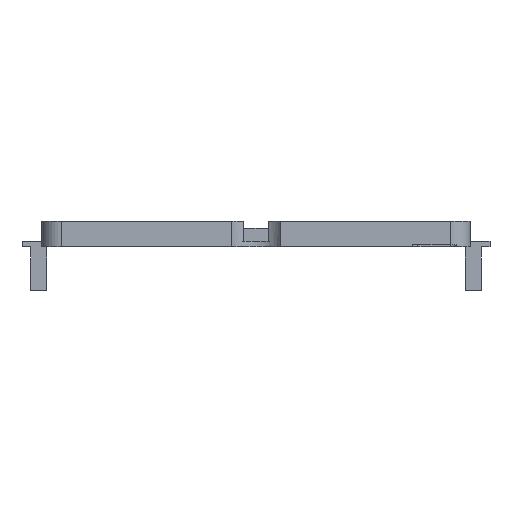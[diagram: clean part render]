
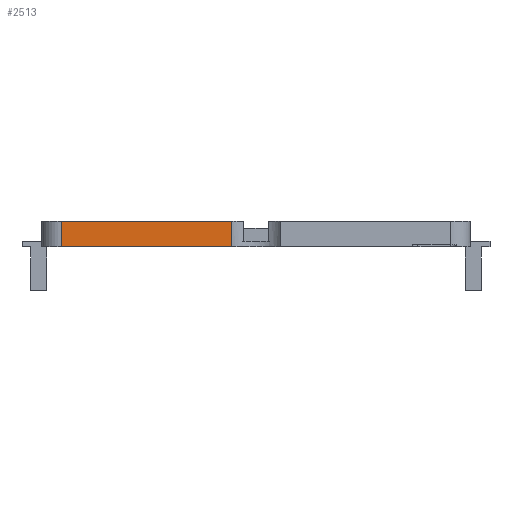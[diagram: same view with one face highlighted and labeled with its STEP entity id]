
A CAD part, front view. The second image highlights one B-rep face of the part: STEP entity #2513.
In plain terms, the highlighted planar face has unit normal (0, -1, 0).
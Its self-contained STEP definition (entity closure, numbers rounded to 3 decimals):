
#44 = CYLINDRICAL_SURFACE('',#45,3.);
#45 = AXIS2_PLACEMENT_3D('',#46,#47,#48);
#46 = CARTESIAN_POINT('',(-29.,-14.5,0.5));
#47 = DIRECTION('',(0.,0.,1.));
#48 = DIRECTION('',(-1.,-0.,0.));
#72 = PLANE('',#73);
#73 = AXIS2_PLACEMENT_3D('',#74,#75,#76);
#74 = CARTESIAN_POINT('',(-32.,-17.5,0.5));
#75 = DIRECTION('',(0.,0.,1.));
#76 = DIRECTION('',(1.,0.,-0.));
#340 = PLANE('',#341);
#341 = AXIS2_PLACEMENT_3D('',#342,#343,#344);
#342 = CARTESIAN_POINT('',(-32.,-17.5,4.3));
#343 = DIRECTION('',(0.,0.,1.));
#344 = DIRECTION('',(1.,0.,-0.));
#356 = VERTEX_POINT('',#357);
#357 = CARTESIAN_POINT('',(-29.,-17.5,0.5));
#379 = EDGE_CURVE('',#356,#380,#382,.T.);
#380 = VERTEX_POINT('',#381);
#381 = CARTESIAN_POINT('',(-29.,-17.5,4.3));
#382 = SURFACE_CURVE('',#383,(#387,#394),.PCURVE_S1.);
#383 = LINE('',#384,#385);
#384 = CARTESIAN_POINT('',(-29.,-17.5,0.5));
#385 = VECTOR('',#386,1.);
#386 = DIRECTION('',(0.,0.,1.));
#387 = PCURVE('',#44,#388);
#388 = DEFINITIONAL_REPRESENTATION('',(#389),#393);
#389 = LINE('',#390,#391);
#390 = CARTESIAN_POINT('',(1.571,0.));
#391 = VECTOR('',#392,1.);
#392 = DIRECTION('',(0.,1.));
#393 = ( GEOMETRIC_REPRESENTATION_CONTEXT(2) 
PARAMETRIC_REPRESENTATION_CONTEXT() REPRESENTATION_CONTEXT('2D SPACE',''
  ) );
#394 = PCURVE('',#395,#400);
#395 = PLANE('',#396);
#396 = AXIS2_PLACEMENT_3D('',#397,#398,#399);
#397 = CARTESIAN_POINT('',(-32.,-17.5,0.5));
#398 = DIRECTION('',(0.,1.,0.));
#399 = DIRECTION('',(0.,-0.,1.));
#400 = DEFINITIONAL_REPRESENTATION('',(#401),#405);
#401 = LINE('',#402,#403);
#402 = CARTESIAN_POINT('',(0.,3.));
#403 = VECTOR('',#404,1.);
#404 = DIRECTION('',(1.,0.));
#405 = ( GEOMETRIC_REPRESENTATION_CONTEXT(2) 
PARAMETRIC_REPRESENTATION_CONTEXT() REPRESENTATION_CONTEXT('2D SPACE',''
  ) );
#435 = EDGE_CURVE('',#356,#436,#438,.T.);
#436 = VERTEX_POINT('',#437);
#437 = CARTESIAN_POINT('',(-3.621,-17.5,0.5));
#438 = SURFACE_CURVE('',#439,(#443,#450),.PCURVE_S1.);
#439 = LINE('',#440,#441);
#440 = CARTESIAN_POINT('',(-32.,-17.5,0.5));
#441 = VECTOR('',#442,1.);
#442 = DIRECTION('',(1.,0.,0.));
#443 = PCURVE('',#72,#444);
#444 = DEFINITIONAL_REPRESENTATION('',(#445),#449);
#445 = LINE('',#446,#447);
#446 = CARTESIAN_POINT('',(0.,0.));
#447 = VECTOR('',#448,1.);
#448 = DIRECTION('',(1.,0.));
#449 = ( GEOMETRIC_REPRESENTATION_CONTEXT(2) 
PARAMETRIC_REPRESENTATION_CONTEXT() REPRESENTATION_CONTEXT('2D SPACE',''
  ) );
#450 = PCURVE('',#395,#451);
#451 = DEFINITIONAL_REPRESENTATION('',(#452),#456);
#452 = LINE('',#453,#454);
#453 = CARTESIAN_POINT('',(0.,0.));
#454 = VECTOR('',#455,1.);
#455 = DIRECTION('',(0.,1.));
#456 = ( GEOMETRIC_REPRESENTATION_CONTEXT(2) 
PARAMETRIC_REPRESENTATION_CONTEXT() REPRESENTATION_CONTEXT('2D SPACE',''
  ) );
#479 = CYLINDRICAL_SURFACE('',#480,4.4);
#480 = AXIS2_PLACEMENT_3D('',#481,#482,#483);
#481 = CARTESIAN_POINT('',(0.,-20.,-0.2));
#482 = DIRECTION('',(-0.,-0.,-1.));
#483 = DIRECTION('',(1.,0.,0.));
#2266 = EDGE_CURVE('',#380,#2267,#2269,.T.);
#2267 = VERTEX_POINT('',#2268);
#2268 = CARTESIAN_POINT('',(-3.621,-17.5,4.3));
#2269 = SURFACE_CURVE('',#2270,(#2274,#2281),.PCURVE_S1.);
#2270 = LINE('',#2271,#2272);
#2271 = CARTESIAN_POINT('',(-32.,-17.5,4.3));
#2272 = VECTOR('',#2273,1.);
#2273 = DIRECTION('',(1.,0.,0.));
#2274 = PCURVE('',#340,#2275);
#2275 = DEFINITIONAL_REPRESENTATION('',(#2276),#2280);
#2276 = LINE('',#2277,#2278);
#2277 = CARTESIAN_POINT('',(0.,0.));
#2278 = VECTOR('',#2279,1.);
#2279 = DIRECTION('',(1.,0.));
#2280 = ( GEOMETRIC_REPRESENTATION_CONTEXT(2) 
PARAMETRIC_REPRESENTATION_CONTEXT() REPRESENTATION_CONTEXT('2D SPACE',''
  ) );
#2281 = PCURVE('',#395,#2282);
#2282 = DEFINITIONAL_REPRESENTATION('',(#2283),#2287);
#2283 = LINE('',#2284,#2285);
#2284 = CARTESIAN_POINT('',(3.8,0.));
#2285 = VECTOR('',#2286,1.);
#2286 = DIRECTION('',(0.,1.));
#2287 = ( GEOMETRIC_REPRESENTATION_CONTEXT(2) 
PARAMETRIC_REPRESENTATION_CONTEXT() REPRESENTATION_CONTEXT('2D SPACE',''
  ) );
#2513 = ADVANCED_FACE('',(#2514),#395,.F.);
#2514 = FACE_BOUND('',#2515,.F.);
#2515 = EDGE_LOOP('',(#2516,#2517,#2518,#2519));
#2516 = ORIENTED_EDGE('',*,*,#435,.F.);
#2517 = ORIENTED_EDGE('',*,*,#379,.T.);
#2518 = ORIENTED_EDGE('',*,*,#2266,.T.);
#2519 = ORIENTED_EDGE('',*,*,#2520,.T.);
#2520 = EDGE_CURVE('',#2267,#436,#2521,.T.);
#2521 = SURFACE_CURVE('',#2522,(#2526,#2533),.PCURVE_S1.);
#2522 = LINE('',#2523,#2524);
#2523 = CARTESIAN_POINT('',(-3.621,-17.5,-0.2));
#2524 = VECTOR('',#2525,1.);
#2525 = DIRECTION('',(-0.,-0.,-1.));
#2526 = PCURVE('',#395,#2527);
#2527 = DEFINITIONAL_REPRESENTATION('',(#2528),#2532);
#2528 = LINE('',#2529,#2530);
#2529 = CARTESIAN_POINT('',(-0.7,28.379));
#2530 = VECTOR('',#2531,1.);
#2531 = DIRECTION('',(-1.,0.));
#2532 = ( GEOMETRIC_REPRESENTATION_CONTEXT(2) 
PARAMETRIC_REPRESENTATION_CONTEXT() REPRESENTATION_CONTEXT('2D SPACE',''
  ) );
#2533 = PCURVE('',#479,#2534);
#2534 = DEFINITIONAL_REPRESENTATION('',(#2535),#2539);
#2535 = LINE('',#2536,#2537);
#2536 = CARTESIAN_POINT('',(3.746,0.));
#2537 = VECTOR('',#2538,1.);
#2538 = DIRECTION('',(-0.,1.));
#2539 = ( GEOMETRIC_REPRESENTATION_CONTEXT(2) 
PARAMETRIC_REPRESENTATION_CONTEXT() REPRESENTATION_CONTEXT('2D SPACE',''
  ) );
